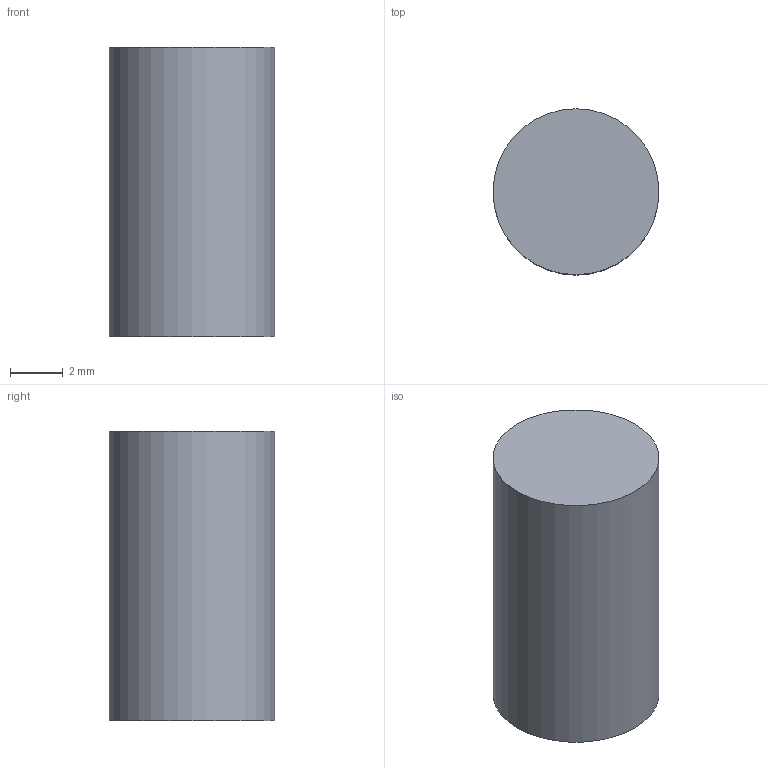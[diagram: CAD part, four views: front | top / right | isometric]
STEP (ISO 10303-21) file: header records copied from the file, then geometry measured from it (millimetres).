
FILE_DESCRIPTION(('Open CASCADE Model'),'2;1');
FILE_NAME('Open CASCADE Shape Model','2026-10-06T14:52:14',('Author'),( 'Open CASCADE'),'Open CASCADE STEP processor 7.9','Open CASCADE 7.9' ,'Unknown');
FILE_SCHEMA(('AUTOMOTIVE_DESIGN { 1 0 10303 214 1 1 1 1 }'));
Length unit declared in the file: millimetre
Products named in the file (2): cp63_r1; cp63_r1_body
Assembly tree (1 placements, depth 2):
  cp63_r1
    cp63_r1_body
Bounding box: 6.3 x 6.3 x 11 mm (x, y, z)
Volume: 342.9 mm3; surface area: 280.1 mm2
Topology: 1 solids, 1 shells, 3 faces, 3 edges, 2 vertices
Faces by surface type: plane 2, cylinder 1
Full cylindrical faces by diameter (mm): 6.3 x1
Entity records: 135 total; most frequent: DIRECTION 21, CARTESIAN_POINT 16, AXIS2_PLACEMENT_3D 7, ORIENTED_EDGE 6, PCURVE 6, DEFINITIONAL_REPRESENTATION 6, LINE 5, VECTOR 5
